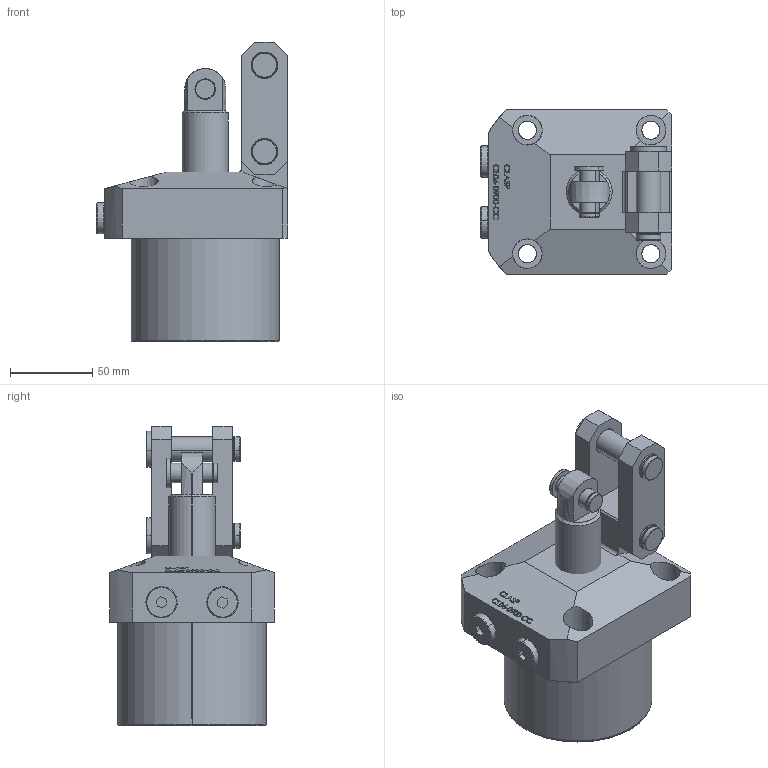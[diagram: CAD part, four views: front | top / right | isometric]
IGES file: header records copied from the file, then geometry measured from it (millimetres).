
Start section: SolidWorks IGES file using analytic representation for surfaces
Global section: file name: D:\karuppas\Clasp\3D model\Link clamp cylinder\CL06--0900-CC\CL06-0900 cc.IGS; native system: SolidWorks 2017; preprocessor: SolidWorks 2017; author: pc; date: 220705.231246; units: millimetre
Bounding box: 116 x 100 x 182 mm (x, y, z)
Surface area: 97436.7 mm2 (no closed solid volume)
Topology: 0 solids, 0 shells, 407 faces, 6659 edges, 6655 vertices
Faces by surface type: bspline 278, revolution 129
